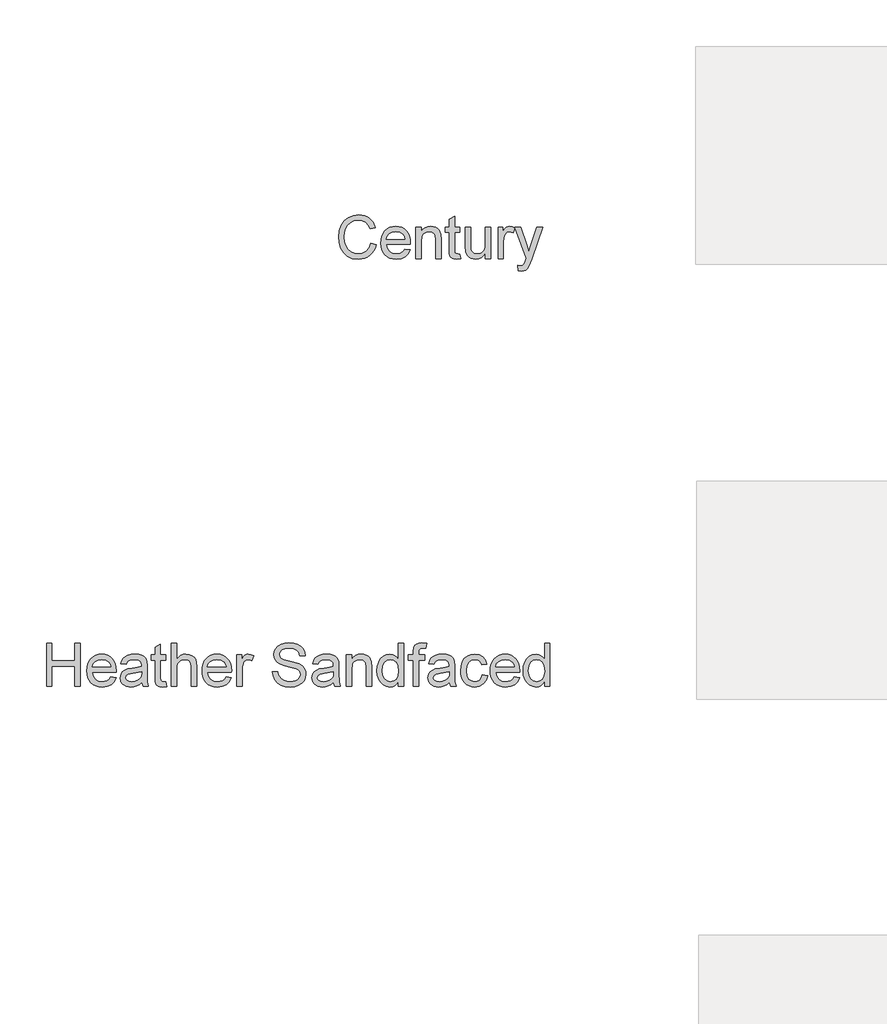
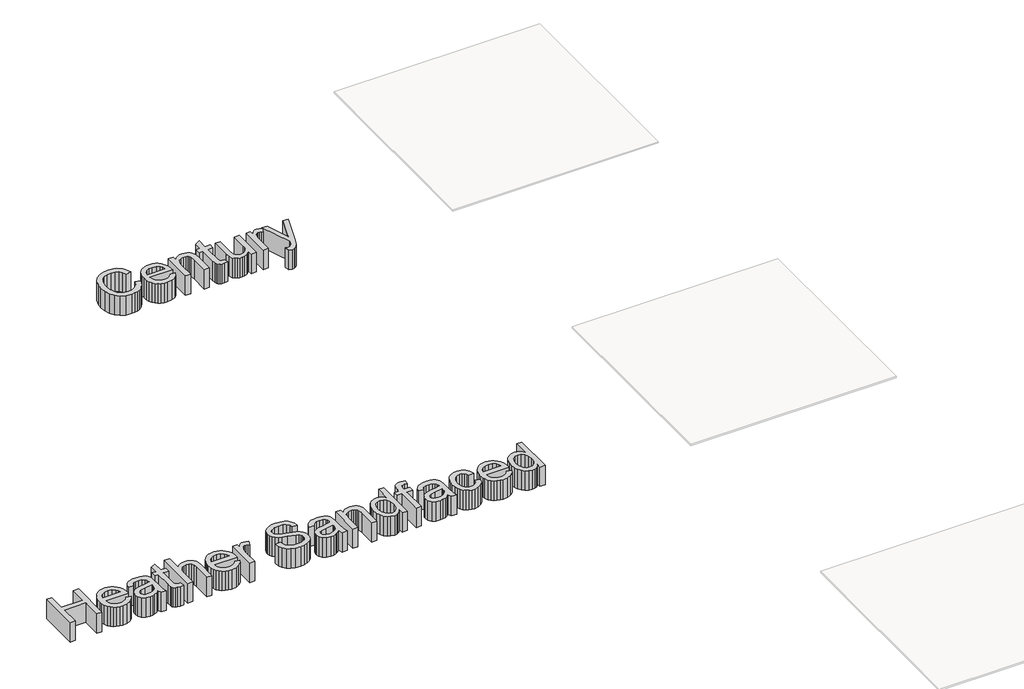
# One storey, part 3 of 6: 2 proxies.
"""IFC4 building model written with IfcOpenShell, lengths in millimetres."""

from ifc_helpers import new_model, si_unit, frame, origin, place, context, project, spatial, polyline, outline, extrude, element, save

model = new_model("IFC4")

# Units and contexts
model_context = context("Model", 3, world=origin())
ifc_project = project(units=[si_unit("LENGTHUNIT", "METRE", prefix="MILLI")], contexts=[model_context])

# Site, building, storey
site = spatial("IfcSite", under=ifc_project)
building = spatial("IfcBuilding", under=site)
storey = spatial("IfcBuildingStorey", under=building, Name="Marley Clay Plain Tile", Elevation=3000.0)

# Proxies
placement = place(None, origin())
element("IfcBuildingElementProxy", 1, Name="600mm Arial", ObjectType="600mm Arial", at=placement, inside=storey, context=model_context, shape_type="SweptSolid", body=[
    extrude(outline(polyline([(-12922.5217489, -1886.8332934), (-12885.598672, -1896.3525242), (-12892.9048619, -1919.3145134), (-12902.6359316, -1939.3783655), (-12914.7918811, -1956.5440807), (-12929.3727104, -1970.8116588), (-12946.0493931, -1982.0278547), (-12964.4929027, -1990.0394232), (-12984.7032393, -1994.8463643), (-13006.6804027, -1996.448678), (-13049.5079268, -1991.5989184), (-13083.519345, -1977.0496396), (-13109.5890566, -1953.3056492), (-13128.5914604, -1920.8717549), (-13140.1930229, -1882.7407453), (-13144.0602104, -1841.9054088), (-13139.6882152, -1798.8344953), (-13126.5722297, -1761.6409857), (-13105.3973498, -1731.5057694), (-13076.848672, -1709.6097357), (-13042.9904989, -1696.277404), (-13005.8871335, -1691.8332934), (-12965.4033595, -1697.5844953), (-12947.7914304, -1704.7734977), (-12931.9328066, -1714.8381011), (-12918.0889063, -1727.5123799), (-12906.5211479, -1742.5304088), (-12890.2140566, -1779.5977165), (-12927.1371335, -1788.3957934), (-12939.9376143, -1761.4697117), (-12957.425595, -1742.9991588), (-12979.817422, -1732.3170674), (-13007.3294412, -1728.7563703), (-13039.0421816, -1732.7046876), (-13065.0938643, -1744.5496396), (-13084.8624941, -1763.0472357), (-13097.7260758, -1786.9534857), (-13104.7843691, -1813.9787261), (-13107.1371335, -1841.8332934), (-13104.3516768, -1875.9438703), (-13095.9953066, -1905.4390626), (-13081.7525181, -1929.1920674), (-13061.3078066, -1946.0760819), (-13036.7975902, -1956.1632213), (-13010.3582873, -1959.5256011), (-12979.5379748, -1954.9462742), (-12953.8558835, -1941.2082934), (-12934.4658595, -1918.4558896), (-12922.5217489, -1886.8332934)])), frame((0.0, 0.0, 3000.0), z_axis=(0.0, 0.0, 1.0), x_axis=(1.0, 0.0, 0.0)), (0.0, 0.0, 1.0), 150.0),
    extrude(outline(polyline([(-12687.5698258, -1927.2179088), (-12651.3679027, -1931.8332934), (-12664.4117729, -1959.1109376), (-12685.2260758, -1979.5015626), (-12713.3420614, -1992.2118992), (-12748.2909797, -1996.448678), (-12771.2011359, -1994.6210037), (-12791.614297, -1989.1379809), (-12809.5304628, -1979.9996095), (-12824.9496335, -1967.2058896), (-12837.3489724, -1951.1128908), (-12846.2056431, -1932.0766828), (-12851.5196455, -1910.0972658), (-12853.2909797, -1885.1746396), (-12851.5016167, -1859.4069112), (-12846.1335277, -1836.6950723), (-12837.1867128, -1817.0391227), (-12824.661172, -1800.4390626), (-12809.2825662, -1787.2509617), (-12791.7765566, -1777.8308896), (-12772.1431431, -1772.1788463), (-12750.3823258, -1770.2948319), (-12729.3223799, -1772.1743391), (-12710.2771575, -1777.8128607), (-12693.2466587, -1787.2103968), (-12678.2308835, -1800.3669473), (-12665.9735217, -1816.9309497), (-12657.2182633, -1836.5508415), (-12651.9651083, -1859.2266227), (-12650.2140566, -1884.9582934), (-12650.4304027, -1894.9102165), (-12816.3679027, -1894.9102165), (-12809.9766768, -1922.5484376), (-12795.129922, -1942.8669473), (-12773.7026383, -1955.3609376), (-12747.5698258, -1959.5256011), (-12727.9183835, -1957.5965146), (-12711.3679027, -1951.8092549), (-12697.9183835, -1941.8032453), (-12687.5698258, -1927.2179088)]), holes=[polyline([(-12816.3679027, -1857.9871396), (-12687.1371335, -1857.9871396), (-12692.1311239, -1838.479928), (-12701.9207873, -1824.5256011), (-12723.4472297, -1811.5448319), (-12750.5265566, -1807.2179088), (-12775.4153787, -1810.6704328), (-12795.9953066, -1821.0280049), (-12810.301196, -1837.1728367), (-12816.3679027, -1857.9871396)])]), frame((0.0, 0.0, 3000.0), z_axis=(0.0, 0.0, 1.0), x_axis=(1.0, 0.0, 0.0)), (0.0, 0.0, 1.0), 150.0),
    extrude(outline(polyline([(-12613.2909797, -1991.8332934), (-12613.2909797, -1774.9102165), (-12576.3679027, -1774.9102165), (-12576.3679027, -1805.198678), (-12563.5403787, -1789.9282453), (-12548.1347297, -1779.0207934), (-12530.1509556, -1772.4763223), (-12509.5890566, -1770.2948319), (-12491.3889364, -1772.0526444), (-12474.7212681, -1777.3260819), (-12460.8210277, -1785.4570915), (-12450.9231912, -1795.7876203), (-12439.8534797, -1822.9390626), (-12437.9063643, -1858.636178), (-12437.9063643, -1991.8332934), (-12474.8294412, -1991.8332934), (-12474.8294412, -1863.6121396), (-12479.0842489, -1830.9438703), (-12484.9706672, -1821.2173078), (-12494.1203066, -1813.6722357), (-12505.848071, -1808.8314905), (-12519.4688643, -1807.2179088), (-12541.0944652, -1810.8417069), (-12559.5289604, -1821.7131011), (-12566.8959977, -1830.5878006), (-12572.1581672, -1842.7167069), (-12576.3679027, -1876.7371396), (-12576.3679027, -1991.8332934), (-12613.2909797, -1991.8332934)])), frame((0.0, 0.0, 3000.0), z_axis=(0.0, 0.0, 1.0), x_axis=(1.0, 0.0, 0.0)), (0.0, 0.0, 1.0), 150.0),
    extrude(outline(polyline([(-12308.675595, -1961.0400242), (-12304.0602104, -1992.9150242), (-12331.6804027, -1996.448678), (-12349.4027585, -1994.9162261), (-12362.6179027, -1990.3188703), (-12371.956845, -1983.2335338), (-12378.050595, -1974.2371396), (-12381.4039604, -1958.7864184), (-12382.5217489, -1932.3381011), (-12382.5217489, -1811.8332934), (-12410.2140566, -1811.8332934), (-12410.2140566, -1774.9102165), (-12382.5217489, -1774.9102165), (-12382.5217489, -1722.1938703), (-12345.598672, -1700.4871396), (-12345.598672, -1774.9102165), (-12308.675595, -1774.9102165), (-12308.675595, -1811.8332934), (-12345.598672, -1811.8332934), (-12345.598672, -1931.2563703), (-12343.6515566, -1950.2948319), (-12337.3414604, -1957.0376203), (-12324.7573258, -1959.5256011), (-12308.675595, -1961.0400242)])), frame((0.0, 0.0, 3000.0), z_axis=(0.0, 0.0, 1.0), x_axis=(1.0, 0.0, 0.0)), (0.0, 0.0, 1.0), 150.0),
    extrude(outline(polyline([(-12133.2909797, -1991.8332934), (-12133.2909797, -1954.5496396), (-12146.6503547, -1972.8804689), (-12162.2092489, -1985.9739184), (-12179.9676623, -1993.8299881), (-12199.925595, -1996.448678), (-12217.9093691, -1994.6097357), (-12234.6491527, -1989.0929088), (-12248.6936239, -1980.7996396), (-12258.5914604, -1970.6313703), (-12269.5890566, -1943.4438703), (-12271.7525181, -1909.1169473), (-12271.7525181, -1774.9102165), (-12234.8294412, -1774.9102165), (-12234.8294412, -1891.7371396), (-12232.5938643, -1929.3813703), (-12227.2122537, -1941.9384617), (-12217.9904989, -1951.4847357), (-12205.5415806, -1957.5153848), (-12190.4784797, -1959.5256011), (-12174.5499941, -1957.4703126), (-12159.6491527, -1951.3044473), (-12147.3624941, -1941.5959136), (-12139.2765566, -1928.9126203), (-12134.7873739, -1911.5418271), (-12133.2909797, -1887.7707934), (-12133.2909797, -1774.9102165), (-12096.3679027, -1774.9102165), (-12096.3679027, -1991.8332934), (-12133.2909797, -1991.8332934)])), frame((0.0, 0.0, 3000.0), z_axis=(0.0, 0.0, 1.0), x_axis=(1.0, 0.0, 0.0)), (0.0, 0.0, 1.0), 150.0),
    extrude(outline(polyline([(-12045.598672, -1991.8332934), (-12045.598672, -1774.9102165), (-12013.2909797, -1774.9102165), (-12013.2909797, -1807.0015626), (-12001.3558835, -1788.3957934), (-11990.3582873, -1777.4342549), (-11979.3246335, -1772.0796876), (-11967.2813643, -1770.2948319), (-11948.8919412, -1773.1433896), (-11930.2140566, -1781.6890626), (-11942.5457873, -1814.7900242), (-11955.5265566, -1809.1109376), (-11968.5073258, -1807.2179088), (-11979.5319652, -1809.0388223), (-11989.3847297, -1814.5015626), (-11997.3444652, -1823.1914665), (-12002.6900181, -1834.6938703), (-12007.1792008, -1855.3188703), (-12008.675595, -1877.8188703), (-12008.675595, -1991.8332934), (-12045.598672, -1991.8332934)])), frame((0.0, 0.0, 3000.0), z_axis=(0.0, 0.0, 1.0), x_axis=(1.0, 0.0, 0.0)), (0.0, 0.0, 1.0), 150.0),
    extrude(outline(polyline([(-11907.1371335, -2074.9102165), (-11911.7525181, -2039.3573319), (-11893.0025181, -2042.6025242), (-11875.4784797, -2038.5280049), (-11864.7332873, -2027.1698319), (-11854.6371335, -1999.9823319), (-11851.7525181, -1991.0400242), (-11930.2140566, -1774.9102165), (-11891.2717489, -1774.9102165), (-11849.661172, -1895.3429088), (-11835.1659797, -1943.5159857), (-11820.6707873, -1900.9679088), (-11777.9063643, -1774.9102165), (-11739.2525181, -1774.9102165), (-11814.7573258, -1997.0256011), (-11834.3727104, -2045.198678), (-11844.4147777, -2060.5772838), (-11855.7909797, -2071.2323319), (-11869.0061239, -2077.4522838), (-11884.5650181, -2079.5256011), (-11907.1371335, -2074.9102165)])), frame((0.0, 0.0, 3000.0), z_axis=(0.0, 0.0, 1.0), x_axis=(1.0, 0.0, 0.0)), (0.0, 0.0, 1.0), 150.0),
])
element("IfcBuildingElementProxy", 2, Name="600mm Arial", ObjectType="600mm Arial", at=placement, inside=storey, context=model_context, shape_type="SweptSolid", body=[
    extrude(outline(polyline([(-15155.1704947, -4937.8374109), (-15155.1704947, -4642.4527955), (-15118.2474177, -4642.4527955), (-15118.2474177, -4762.4527955), (-14961.3243408, -4762.4527955), (-14961.3243408, -4642.4527955), (-14924.4012639, -4642.4527955), (-14924.4012639, -4937.8374109), (-14961.3243408, -4937.8374109), (-14961.3243408, -4799.3758725), (-15118.2474177, -4799.3758725), (-15118.2474177, -4937.8374109), (-15155.1704947, -4937.8374109)])), frame((0.0, 0.0, 3000.0), z_axis=(0.0, 0.0, 1.0), x_axis=(1.0, 0.0, 0.0)), (0.0, 0.0, 1.0), 150.0),
    extrude(outline(polyline([(-14712.5262639, -4873.2220263), (-14676.3243408, -4877.8374109), (-14689.368211, -4905.1150552), (-14710.1825139, -4925.5056802), (-14738.2984995, -4938.2160167), (-14773.2474177, -4942.4527955), (-14796.157574, -4940.6251213), (-14816.570735, -4935.1420984), (-14834.4869009, -4926.003727), (-14849.9060716, -4913.2100071), (-14862.3054105, -4897.1170083), (-14871.1620812, -4878.0808003), (-14876.4760836, -4856.1013833), (-14878.2474177, -4831.1787571), (-14876.4580547, -4805.4110287), (-14871.0899658, -4782.6991898), (-14862.1431509, -4763.0432402), (-14849.61761, -4746.4431802), (-14834.2390043, -4733.2550792), (-14816.7329947, -4723.8350071), (-14797.0995812, -4718.1829638), (-14775.3387639, -4716.2989494), (-14754.278818, -4718.1784566), (-14735.2335956, -4723.8169782), (-14718.2030968, -4733.2145143), (-14703.1873216, -4746.3710648), (-14690.9299598, -4762.9350672), (-14682.1747014, -4782.554959), (-14676.9215463, -4805.2307402), (-14675.1704947, -4830.9624109), (-14675.3868408, -4840.914334), (-14841.3243408, -4840.914334), (-14834.9331148, -4868.5525552), (-14820.08636, -4888.8710648), (-14798.6590764, -4901.3650552), (-14772.5262639, -4905.5297186), (-14752.8748216, -4903.6006321), (-14736.3243408, -4897.8133725), (-14722.8748216, -4887.8073628), (-14712.5262639, -4873.2220263)]), holes=[polyline([(-14841.3243408, -4803.9912571), (-14712.0935716, -4803.9912571), (-14717.087562, -4784.4840455), (-14726.8772254, -4770.5297186), (-14748.4036677, -4757.5489494), (-14775.4829947, -4753.2220263), (-14800.3718168, -4756.6745503), (-14820.9517447, -4767.0321225), (-14835.2576341, -4783.1769542), (-14841.3243408, -4803.9912571)])]), frame((0.0, 0.0, 3000.0), z_axis=(0.0, 0.0, 1.0), x_axis=(1.0, 0.0, 0.0)), (0.0, 0.0, 1.0), 150.0),
    extrude(outline(polyline([(-14499.7858793, -4910.1451032), (-14517.4271052, -4925.2713052), (-14535.5911677, -4935.1691417), (-14554.6927302, -4940.6318821), (-14575.1464562, -4942.4527955), (-14606.0028264, -4938.0717859), (-14628.7642447, -4924.9287571), (-14642.7997014, -4904.9708244), (-14647.478187, -4880.1451032), (-14645.71136, -4864.8386128), (-14640.4108793, -4850.9383725), (-14632.2347975, -4839.039334), (-14621.8411677, -4829.7364494), (-14595.9878023, -4817.6210648), (-14564.040687, -4812.0681802), (-14526.2882831, -4806.226834), (-14500.0022254, -4799.3758725), (-14499.7858793, -4791.1547186), (-14502.3279466, -4774.6763532), (-14509.9541485, -4763.8951032), (-14527.009437, -4755.8902955), (-14550.7714562, -4753.2220263), (-14572.7666485, -4754.9978677), (-14588.1272254, -4760.3253917), (-14598.601985, -4770.1781561), (-14605.9397254, -4785.5297186), (-14642.8628023, -4780.914334), (-14636.4535475, -4760.7220263), (-14626.8892447, -4744.8566417), (-14613.2774658, -4732.7232282), (-14594.7257831, -4723.726834), (-14572.0364802, -4718.1559205), (-14546.0118408, -4716.2989494), (-14521.0509033, -4717.9395744), (-14501.2642447, -4722.8614494), (-14486.3453745, -4730.2622907), (-14475.9878023, -4739.3398148), (-14469.118812, -4750.5627715), (-14464.665687, -4764.3999109), (-14462.8628023, -4796.7076032), (-14462.8628023, -4842.6451032), (-14460.9878023, -4906.7917378), (-14453.6320331, -4937.8374109), (-14490.55511, -4937.8374109), (-14499.7858793, -4910.1451032)]), holes=[polyline([(-14499.7858793, -4836.2989494), (-14559.353187, -4847.6210648), (-14591.1200139, -4853.6066417), (-14605.5070331, -4863.3422186), (-14610.55511, -4877.5489494), (-14607.805711, -4888.5285167), (-14599.5575139, -4897.5249109), (-14585.9908072, -4903.5285167), (-14567.2858793, -4905.5297186), (-14547.4541485, -4903.321185), (-14529.93011, -4896.695584), (-14515.7233793, -4886.9329638), (-14505.8435716, -4875.3133725), (-14501.462562, -4863.3422186), (-14500.0022254, -4846.7556802), (-14499.7858793, -4836.2989494)])]), frame((0.0, 0.0, 3000.0), z_axis=(0.0, 0.0, 1.0), x_axis=(1.0, 0.0, 0.0)), (0.0, 0.0, 1.0), 150.0),
    extrude(outline(polyline([(-14333.6320331, -4907.0441417), (-14329.0166485, -4938.9191417), (-14356.6368408, -4942.4527955), (-14374.3591966, -4940.9203436), (-14387.5743408, -4936.3229878), (-14396.9132831, -4929.2376513), (-14403.0070331, -4920.2412571), (-14406.3603985, -4904.7905359), (-14407.478187, -4878.3422186), (-14407.478187, -4757.8374109), (-14435.1704947, -4757.8374109), (-14435.1704947, -4720.914334), (-14407.478187, -4720.914334), (-14407.478187, -4668.1979878), (-14370.55511, -4646.4912571), (-14370.55511, -4720.914334), (-14333.6320331, -4720.914334), (-14333.6320331, -4757.8374109), (-14370.55511, -4757.8374109), (-14370.55511, -4877.2604878), (-14368.6079947, -4896.2989494), (-14362.2978985, -4903.0417378), (-14349.7137639, -4905.5297186), (-14333.6320331, -4907.0441417)])), frame((0.0, 0.0, 3000.0), z_axis=(0.0, 0.0, 1.0), x_axis=(1.0, 0.0, 0.0)), (0.0, 0.0, 1.0), 150.0),
    extrude(outline(polyline([(-14296.7089562, -4937.8374109), (-14296.7089562, -4642.4527955), (-14259.7858793, -4642.4527955), (-14259.7858793, -4751.0585648), (-14246.2236797, -4735.851233), (-14230.993812, -4724.9888532), (-14214.0962759, -4718.4714253), (-14195.5310716, -4716.2989494), (-14173.2293889, -4718.6697427), (-14154.0647254, -4725.7821225), (-14138.9745812, -4737.0771946), (-14128.8964562, -4751.9960648), (-14123.2173697, -4772.4948628), (-14121.3243408, -4800.5297186), (-14121.3243408, -4937.8374109), (-14158.2474177, -4937.8374109), (-14158.2474177, -4804.351834), (-14161.1861197, -4781.2388532), (-14170.0022254, -4765.4095263), (-14184.2089562, -4756.2689013), (-14203.3195331, -4753.2220263), (-14218.9234995, -4755.2773148), (-14233.571937, -4761.4431802), (-14245.7053504, -4771.1246705), (-14253.7642447, -4783.726834), (-14258.2804706, -4800.4756321), (-14259.7858793, -4822.5970263), (-14259.7858793, -4937.8374109), (-14296.7089562, -4937.8374109)])), frame((0.0, 0.0, 3000.0), z_axis=(0.0, 0.0, 1.0), x_axis=(1.0, 0.0, 0.0)), (0.0, 0.0, 1.0), 150.0),
    extrude(outline(polyline([(-13918.68011, -4873.2220263), (-13882.478187, -4877.8374109), (-13895.5220572, -4905.1150552), (-13916.33636, -4925.5056802), (-13944.4523456, -4938.2160167), (-13979.4012639, -4942.4527955), (-14002.3114201, -4940.6251213), (-14022.7245812, -4935.1420984), (-14040.6407471, -4926.003727), (-14056.0599177, -4913.2100071), (-14068.4592567, -4897.1170083), (-14077.3159273, -4878.0808003), (-14082.6299297, -4856.1013833), (-14084.4012639, -4831.1787571), (-14082.6119009, -4805.4110287), (-14077.243812, -4782.6991898), (-14068.2969971, -4763.0432402), (-14055.7714562, -4746.4431802), (-14040.3928504, -4733.2550792), (-14022.8868408, -4723.8350071), (-14003.2534273, -4718.1829638), (-13981.49261, -4716.2989494), (-13960.4326641, -4718.1784566), (-13941.3874418, -4723.8169782), (-13924.356943, -4733.2145143), (-13909.3411677, -4746.3710648), (-13897.083806, -4762.9350672), (-13888.3285475, -4782.554959), (-13883.0753925, -4805.2307402), (-13881.3243408, -4830.9624109), (-13881.540687, -4840.914334), (-14047.478187, -4840.914334), (-14041.086961, -4868.5525552), (-14026.2402062, -4888.8710648), (-14004.8129225, -4901.3650552), (-13978.68011, -4905.5297186), (-13959.0286677, -4903.6006321), (-13942.478187, -4897.8133725), (-13929.0286677, -4887.8073628), (-13918.68011, -4873.2220263)]), holes=[polyline([(-14047.478187, -4803.9912571), (-13918.2474177, -4803.9912571), (-13923.2414081, -4784.4840455), (-13933.0310716, -4770.5297186), (-13954.5575139, -4757.5489494), (-13981.6368408, -4753.2220263), (-14006.5256629, -4756.6745503), (-14027.1055908, -4767.0321225), (-14041.4114802, -4783.1769542), (-14047.478187, -4803.9912571)])]), frame((0.0, 0.0, 3000.0), z_axis=(0.0, 0.0, 1.0), x_axis=(1.0, 0.0, 0.0)), (0.0, 0.0, 1.0), 150.0),
    extrude(outline(polyline([(-13844.4012639, -4937.8374109), (-13844.4012639, -4720.914334), (-13812.0935716, -4720.914334), (-13812.0935716, -4753.0056802), (-13800.1584754, -4734.3999109), (-13789.1608793, -4723.4383725), (-13778.1272254, -4718.0838052), (-13766.0839562, -4716.2989494), (-13747.6945331, -4719.1475071), (-13729.0166485, -4727.6931802), (-13741.3483793, -4760.7941417), (-13754.3291485, -4755.1150552), (-13767.3099177, -4753.2220263), (-13778.3345572, -4755.0429398), (-13788.1873216, -4760.5056802), (-13796.1470572, -4769.195584), (-13801.49261, -4780.6979878), (-13805.9817927, -4801.3229878), (-13807.478187, -4823.8229878), (-13807.478187, -4937.8374109), (-13844.4012639, -4937.8374109)])), frame((0.0, 0.0, 3000.0), z_axis=(0.0, 0.0, 1.0), x_axis=(1.0, 0.0, 0.0)), (0.0, 0.0, 1.0), 150.0),
    extrude(outline(polyline([(-13599.7858793, -4836.2989494), (-13562.8628023, -4836.2989494), (-13558.6260235, -4856.788733), (-13550.9637639, -4873.258084), (-13539.0106389, -4886.3289975), (-13521.9012639, -4896.6234686), (-13500.9878023, -4903.3031561), (-13477.6224177, -4905.5297186), (-13457.0515043, -4903.8440215), (-13439.040687, -4898.7869302), (-13424.446336, -4890.7821225), (-13414.1248216, -4880.2532763), (-13407.9859995, -4868.164935), (-13405.9397254, -4855.4816417), (-13407.4721773, -4843.1228677), (-13412.0695331, -4832.4407763), (-13421.4084754, -4823.3271946), (-13437.165687, -4815.6739494), (-13490.9277062, -4801.5753917), (-13526.2191725, -4792.2454638), (-13548.8003023, -4783.3662571), (-13567.180711, -4770.9443821), (-13580.2065523, -4755.8902955), (-13587.9679706, -4738.5285167), (-13590.55511, -4719.1835648), (-13587.3549898, -4697.5579638), (-13577.7546293, -4677.3926994), (-13562.0064322, -4660.3013532), (-13540.3628023, -4647.8975071), (-13514.383235, -4640.352435), (-13485.6272254, -4637.8374109), (-13454.4733793, -4640.4696225), (-13427.2137639, -4648.3662571), (-13404.821937, -4661.3650552), (-13388.2714562, -4679.3037571), (-13377.7966966, -4701.0645744), (-13373.6320331, -4725.5297186), (-13410.55511, -4725.5297186), (-13417.3339562, -4703.4984686), (-13431.4685716, -4687.5970263), (-13453.5539081, -4677.9696225), (-13484.1849177, -4674.7604878), (-13515.5370812, -4677.9335648), (-13537.0454947, -4687.4527955), (-13549.4853985, -4701.461209), (-13553.6320331, -4718.101834), (-13550.6933312, -4732.2905359), (-13541.8772254, -4743.7027955), (-13521.0358793, -4753.9071225), (-13481.5887639, -4764.3277955), (-13416.2522254, -4782.8614494), (-13395.2035475, -4796.2568821), (-13380.5190523, -4812.789334), (-13371.8922495, -4832.2785167), (-13369.0166485, -4854.5441417), (-13372.3249418, -4877.30556), (-13382.2498216, -4898.7148148), (-13398.3856389, -4917.1402955), (-13420.3267447, -4930.9503917), (-13446.711961, -4939.5771946), (-13476.18011, -4942.4527955), (-13512.3549898, -4939.351834), (-13542.1296293, -4930.0489494), (-13565.8465764, -4914.508084), (-13583.8483793, -4892.6931802), (-13595.4048697, -4866.1186609), (-13599.7858793, -4836.2989494)])), frame((0.0, 0.0, 3000.0), z_axis=(0.0, 0.0, 1.0), x_axis=(1.0, 0.0, 0.0)), (0.0, 0.0, 1.0), 150.0),
    extrude(outline(polyline([(-13179.7858793, -4910.1451032), (-13197.4271052, -4925.2713052), (-13215.5911677, -4935.1691417), (-13234.6927302, -4940.6318821), (-13255.1464562, -4942.4527955), (-13286.0028264, -4938.0717859), (-13308.7642447, -4924.9287571), (-13322.7997014, -4904.9708244), (-13327.478187, -4880.1451032), (-13325.71136, -4864.8386128), (-13320.4108793, -4850.9383725), (-13312.2347975, -4839.039334), (-13301.8411677, -4829.7364494), (-13275.9878023, -4817.6210648), (-13244.040687, -4812.0681802), (-13206.2882831, -4806.226834), (-13180.0022254, -4799.3758725), (-13179.7858793, -4791.1547186), (-13182.3279466, -4774.6763532), (-13189.9541485, -4763.8951032), (-13207.009437, -4755.8902955), (-13230.7714562, -4753.2220263), (-13252.7666485, -4754.9978677), (-13268.1272254, -4760.3253917), (-13278.601985, -4770.1781561), (-13285.9397254, -4785.5297186), (-13322.8628023, -4780.914334), (-13316.4535475, -4760.7220263), (-13306.8892447, -4744.8566417), (-13293.2774658, -4732.7232282), (-13274.7257831, -4723.726834), (-13252.0364802, -4718.1559205), (-13226.0118408, -4716.2989494), (-13201.0509033, -4717.9395744), (-13181.2642447, -4722.8614494), (-13166.3453745, -4730.2622907), (-13155.9878023, -4739.3398148), (-13149.118812, -4750.5627715), (-13144.665687, -4764.3999109), (-13142.8628023, -4796.7076032), (-13142.8628023, -4842.6451032), (-13140.9878023, -4906.7917378), (-13133.6320331, -4937.8374109), (-13170.55511, -4937.8374109), (-13179.7858793, -4910.1451032)]), holes=[polyline([(-13179.7858793, -4836.2989494), (-13239.353187, -4847.6210648), (-13271.1200139, -4853.6066417), (-13285.5070331, -4863.3422186), (-13290.55511, -4877.5489494), (-13287.805711, -4888.5285167), (-13279.5575139, -4897.5249109), (-13265.9908072, -4903.5285167), (-13247.2858793, -4905.5297186), (-13227.4541485, -4903.321185), (-13209.93011, -4896.695584), (-13195.7233793, -4886.9329638), (-13185.8435716, -4875.3133725), (-13181.462562, -4863.3422186), (-13180.0022254, -4846.7556802), (-13179.7858793, -4836.2989494)])]), frame((0.0, 0.0, 3000.0), z_axis=(0.0, 0.0, 1.0), x_axis=(1.0, 0.0, 0.0)), (0.0, 0.0, 1.0), 150.0),
    extrude(outline(polyline([(-13092.0935716, -4937.8374109), (-13092.0935716, -4720.914334), (-13055.1704947, -4720.914334), (-13055.1704947, -4751.2027955), (-13042.3429706, -4735.9323628), (-13026.9373216, -4725.0249109), (-13008.9535475, -4718.4804398), (-12988.3916485, -4716.2989494), (-12970.1915283, -4718.0567619), (-12953.52386, -4723.3301994), (-12939.6236197, -4731.461209), (-12929.7257831, -4741.7917378), (-12918.6560716, -4768.9431802), (-12916.7089562, -4804.6402955), (-12916.7089562, -4937.8374109), (-12953.6320331, -4937.8374109), (-12953.6320331, -4809.6162571), (-12957.8868408, -4776.9479878), (-12963.7732591, -4767.2214253), (-12972.9228985, -4759.6763532), (-12984.6506629, -4754.835608), (-12998.2714562, -4753.2220263), (-13019.8970572, -4756.8458244), (-13038.3315523, -4767.7172186), (-13045.6985896, -4776.5919181), (-13050.9607591, -4788.7208244), (-13055.1704947, -4822.7412571), (-13055.1704947, -4937.8374109), (-13092.0935716, -4937.8374109)])), frame((0.0, 0.0, 3000.0), z_axis=(0.0, 0.0, 1.0), x_axis=(1.0, 0.0, 0.0)), (0.0, 0.0, 1.0), 150.0),
    extrude(outline(polyline([(-12732.0935716, -4937.8374109), (-12732.0935716, -4903.0056802), (-12743.1407471, -4920.2637931), (-12756.5226581, -4932.5910167), (-12772.2393047, -4939.9873508), (-12790.290687, -4942.4527955), (-12814.1608793, -4938.883084), (-12836.0118408, -4928.1739494), (-12854.509437, -4911.0735888), (-12868.3195331, -4888.3301994), (-12876.9192927, -4860.8632523), (-12879.7858793, -4829.5922186), (-12877.1446533, -4798.7088052), (-12869.2209754, -4770.8181802), (-12856.02386, -4747.5068821), (-12837.5623216, -4730.3614494), (-12815.2335956, -4719.8145744), (-12790.4349177, -4716.2989494), (-12772.3700139, -4718.8139734), (-12756.3964562, -4726.3590455), (-12742.8567927, -4737.9245503), (-12732.0935716, -4752.5008725), (-12732.0935716, -4642.4527955), (-12695.1704947, -4642.4527955), (-12695.1704947, -4937.8374109), (-12732.0935716, -4937.8374109)]), holes=[polyline([(-12842.8628023, -4829.4479878), (-12838.6981389, -4862.8464253), (-12826.2041485, -4886.5994302), (-12808.0491004, -4900.7971465), (-12786.9012639, -4905.5297186), (-12765.7624418, -4901.0134927), (-12748.0671293, -4887.4648148), (-12736.086961, -4864.6312811), (-12732.0935716, -4832.2604878), (-12736.1590764, -4796.8698628), (-12748.3555908, -4772.3326032), (-12766.5016245, -4757.9996705), (-12788.415687, -4753.2220263), (-12809.7798697, -4757.8103677), (-12827.2858793, -4771.5753917), (-12838.9685716, -4795.2202234), (-12842.8628023, -4829.4479878)])]), frame((0.0, 0.0, 3000.0), z_axis=(0.0, 0.0, 1.0), x_axis=(1.0, 0.0, 0.0)), (0.0, 0.0, 1.0), 150.0),
    extrude(outline(polyline([(-12630.55511, -4937.8374109), (-12630.55511, -4757.8374109), (-12662.8628023, -4757.8374109), (-12662.8628023, -4720.914334), (-12630.55511, -4720.914334), (-12630.55511, -4699.0633725), (-12626.6608793, -4668.2701032), (-12619.2329947, -4655.992459), (-12607.7666485, -4646.2749109), (-12591.7209754, -4639.9467859), (-12570.55511, -4637.8374109), (-12536.8772254, -4641.8758725), (-12542.2858793, -4676.4912571), (-12563.5599177, -4674.7604878), (-12577.5953745, -4676.2929398), (-12586.8171293, -4680.8902955), (-12591.9283072, -4689.6703436), (-12593.6320331, -4703.7508725), (-12593.6320331, -4720.914334), (-12552.0935716, -4720.914334), (-12552.0935716, -4757.8374109), (-12593.6320331, -4757.8374109), (-12593.6320331, -4937.8374109), (-12630.55511, -4937.8374109)])), frame((0.0, 0.0, 3000.0), z_axis=(0.0, 0.0, 1.0), x_axis=(1.0, 0.0, 0.0)), (0.0, 0.0, 1.0), 150.0),
    extrude(outline(polyline([(-12381.3243408, -4910.1451032), (-12398.9655668, -4925.2713052), (-12417.1296293, -4935.1691417), (-12436.2311918, -4940.6318821), (-12456.6849177, -4942.4527955), (-12487.5412879, -4938.0717859), (-12510.3027062, -4924.9287571), (-12524.3381629, -4904.9708244), (-12529.0166485, -4880.1451032), (-12527.2498216, -4864.8386128), (-12521.9493408, -4850.9383725), (-12513.7732591, -4839.039334), (-12503.3796293, -4829.7364494), (-12477.5262639, -4817.6210648), (-12445.5791485, -4812.0681802), (-12407.8267447, -4806.226834), (-12381.540687, -4799.3758725), (-12381.3243408, -4791.1547186), (-12383.8664081, -4774.6763532), (-12391.49261, -4763.8951032), (-12408.5478985, -4755.8902955), (-12432.3099177, -4753.2220263), (-12454.30511, -4754.9978677), (-12469.665687, -4760.3253917), (-12480.1404466, -4770.1781561), (-12487.478187, -4785.5297186), (-12524.4012639, -4780.914334), (-12517.9920091, -4760.7220263), (-12508.4277062, -4744.8566417), (-12494.8159273, -4732.7232282), (-12476.2642447, -4723.726834), (-12453.5749418, -4718.1559205), (-12427.5503023, -4716.2989494), (-12402.5893648, -4717.9395744), (-12382.8027062, -4722.8614494), (-12367.883836, -4730.2622907), (-12357.5262639, -4739.3398148), (-12350.6572735, -4750.5627715), (-12346.2041485, -4764.3999109), (-12344.4012639, -4796.7076032), (-12344.4012639, -4842.6451032), (-12342.5262639, -4906.7917378), (-12335.1704947, -4937.8374109), (-12372.0935716, -4937.8374109), (-12381.3243408, -4910.1451032)]), holes=[polyline([(-12381.3243408, -4836.2989494), (-12440.8916485, -4847.6210648), (-12472.6584754, -4853.6066417), (-12487.0454947, -4863.3422186), (-12492.0935716, -4877.5489494), (-12489.3441725, -4888.5285167), (-12481.0959754, -4897.5249109), (-12467.5292687, -4903.5285167), (-12448.8243408, -4905.5297186), (-12428.99261, -4903.321185), (-12411.4685716, -4896.695584), (-12397.2618408, -4886.9329638), (-12387.3820331, -4875.3133725), (-12383.0010235, -4863.3422186), (-12381.540687, -4846.7556802), (-12381.3243408, -4836.2989494)])]), frame((0.0, 0.0, 3000.0), z_axis=(0.0, 0.0, 1.0), x_axis=(1.0, 0.0, 0.0)), (0.0, 0.0, 1.0), 150.0),
    extrude(outline(polyline([(-12155.1704947, -4859.3758725), (-12118.2474177, -4863.9912571), (-12128.5418889, -4896.8308003), (-12147.8868408, -4921.6475071), (-12174.46136, -4937.2514734), (-12206.4445331, -4942.4527955), (-12227.1529165, -4940.6386429), (-12245.7203745, -4935.196185), (-12262.1469069, -4926.1254217), (-12276.4325139, -4913.4263532), (-12287.9957651, -4897.3378616), (-12296.2552302, -4878.0988292), (-12301.2109093, -4855.7092559), (-12302.8628023, -4830.1691417), (-12300.0412879, -4797.3115696), (-12291.5767447, -4768.8350071), (-12277.3339562, -4745.8392138), (-12257.1777062, -4729.4239494), (-12233.0641245, -4719.5801994), (-12206.9493408, -4716.2989494), (-12175.7504225, -4720.8061609), (-12150.8075139, -4734.3277955), (-12132.9138841, -4756.1426994), (-12122.8628023, -4785.5297186), (-12159.7858793, -4790.1451032), (-12166.4835956, -4774.0363292), (-12176.9132831, -4762.4888532), (-12190.4980187, -4755.538733), (-12206.6608793, -4753.2220263), (-12230.5220572, -4757.7833244), (-12249.46136, -4771.4672186), (-12261.8201341, -4795.0128917), (-12265.9397254, -4829.1595263), (-12261.9102783, -4863.7658965), (-12249.821937, -4887.3926994), (-12231.2251822, -4900.9954638), (-12207.6704947, -4905.5297186), (-12188.5509033, -4902.6991898), (-12172.8748216, -4894.2076032), (-12161.4715764, -4879.8386128), (-12155.1704947, -4859.3758725)])), frame((0.0, 0.0, 3000.0), z_axis=(0.0, 0.0, 1.0), x_axis=(1.0, 0.0, 0.0)), (0.0, 0.0, 1.0), 150.0),
    extrude(outline(polyline([(-11934.0647254, -4873.2220263), (-11897.8628023, -4877.8374109), (-11910.9066725, -4905.1150552), (-11931.7209754, -4925.5056802), (-11959.836961, -4938.2160167), (-11994.7858793, -4942.4527955), (-12017.6960355, -4940.6251213), (-12038.1091966, -4935.1420984), (-12056.0253624, -4926.003727), (-12071.4445331, -4913.2100071), (-12083.8438721, -4897.1170083), (-12092.7005427, -4878.0808003), (-12098.0145451, -4856.1013833), (-12099.7858793, -4831.1787571), (-12097.9965163, -4805.4110287), (-12092.6284273, -4782.6991898), (-12083.6816124, -4763.0432402), (-12071.1560716, -4746.4431802), (-12055.7774658, -4733.2550792), (-12038.2714562, -4723.8350071), (-12018.6380427, -4718.1829638), (-11996.8772254, -4716.2989494), (-11975.8172795, -4718.1784566), (-11956.7720572, -4723.8169782), (-11939.7415584, -4733.2145143), (-11924.7257831, -4746.3710648), (-11912.4684213, -4762.9350672), (-11903.7131629, -4782.554959), (-11898.4600079, -4805.2307402), (-11896.7089562, -4830.9624109), (-11896.9253023, -4840.914334), (-12062.8628023, -4840.914334), (-12056.4715764, -4868.5525552), (-12041.6248216, -4888.8710648), (-12020.1975379, -4901.3650552), (-11994.0647254, -4905.5297186), (-11974.4132831, -4903.6006321), (-11957.8628023, -4897.8133725), (-11944.4132831, -4887.8073628), (-11934.0647254, -4873.2220263)]), holes=[polyline([(-12062.8628023, -4803.9912571), (-11933.6320331, -4803.9912571), (-11938.6260235, -4784.4840455), (-11948.415687, -4770.5297186), (-11969.9421293, -4757.5489494), (-11997.0214562, -4753.2220263), (-12021.9102783, -4756.6745503), (-12042.4902062, -4767.0321225), (-12056.7960956, -4783.1769542), (-12062.8628023, -4803.9912571)])]), frame((0.0, 0.0, 3000.0), z_axis=(0.0, 0.0, 1.0), x_axis=(1.0, 0.0, 0.0)), (0.0, 0.0, 1.0), 150.0),
    extrude(outline(polyline([(-11725.9397254, -4937.8374109), (-11725.9397254, -4903.0056802), (-11736.9869009, -4920.2637931), (-11750.368812, -4932.5910167), (-11766.0854586, -4939.9873508), (-11784.1368408, -4942.4527955), (-11808.0070331, -4938.883084), (-11829.8579947, -4928.1739494), (-11848.3555908, -4911.0735888), (-11862.165687, -4888.3301994), (-11870.7654466, -4860.8632523), (-11873.6320331, -4829.5922186), (-11870.9908072, -4798.7088052), (-11863.0671293, -4770.8181802), (-11849.8700139, -4747.5068821), (-11831.4084754, -4730.3614494), (-11809.0797495, -4719.8145744), (-11784.2810716, -4716.2989494), (-11766.2161677, -4718.8139734), (-11750.24261, -4726.3590455), (-11736.7029466, -4737.9245503), (-11725.9397254, -4752.5008725), (-11725.9397254, -4642.4527955), (-11689.0166485, -4642.4527955), (-11689.0166485, -4937.8374109), (-11725.9397254, -4937.8374109)]), holes=[polyline([(-11836.7089562, -4829.4479878), (-11832.5442927, -4862.8464253), (-11820.0503023, -4886.5994302), (-11801.8952543, -4900.7971465), (-11780.7474177, -4905.5297186), (-11759.6085956, -4901.0134927), (-11741.9132831, -4887.4648148), (-11729.9331148, -4864.6312811), (-11725.9397254, -4832.2604878), (-11730.0052302, -4796.8698628), (-11742.2017447, -4772.3326032), (-11760.3477783, -4757.9996705), (-11782.2618408, -4753.2220263), (-11803.6260235, -4757.8103677), (-11821.1320331, -4771.5753917), (-11832.8147254, -4795.2202234), (-11836.7089562, -4829.4479878)])]), frame((0.0, 0.0, 3000.0), z_axis=(0.0, 0.0, 1.0), x_axis=(1.0, 0.0, 0.0)), (0.0, 0.0, 1.0), 150.0),
])

save(model, "model.ifc")
